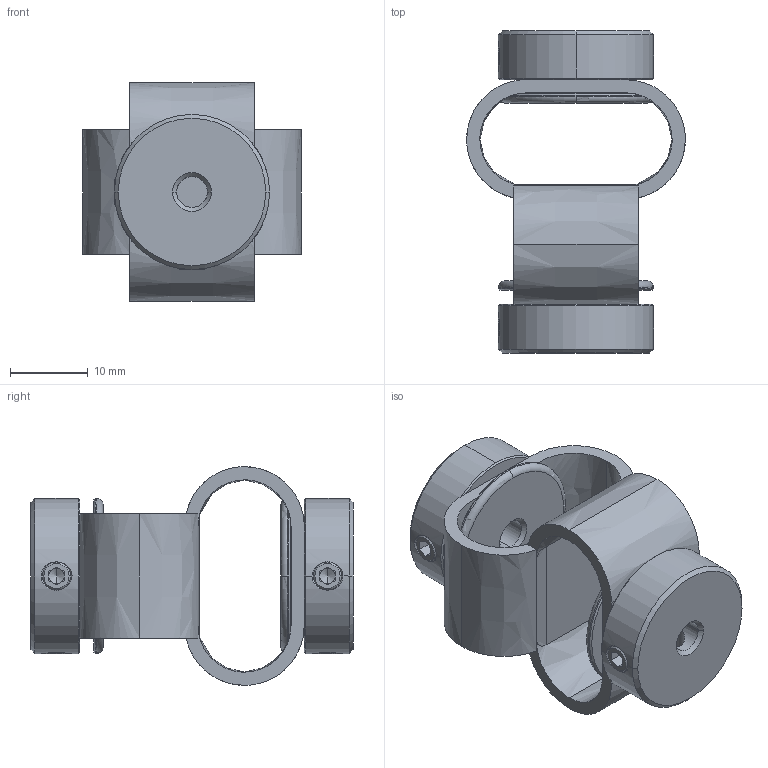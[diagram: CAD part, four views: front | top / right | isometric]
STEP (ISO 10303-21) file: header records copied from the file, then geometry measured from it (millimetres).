
FILE_DESCRIPTION (( 'STEP AP203' ), '1' );
FILE_NAME ('LS-D-D27L40-4-4.STEP', '2021-10-28T06:03:39', ( '' ), ( '' ), 'SwSTEP 2.0', 'SolidWorks 2018', '' );
FILE_SCHEMA (( 'CONFIG_CONTROL_DESIGN' ));
Length unit declared in the file: millimetre
Products named in the file (1): LS-D-D27L40-4-4
Bounding box: 28.2 x 41.54 x 28.2 mm (x, y, z)
Volume: 7567.2 mm3; surface area: 6693.6 mm2
Topology: 1 solids, 1 shells, 190 faces, 496 edges, 310 vertices
Faces by surface type: plane 86, cone 54, cylinder 30, bspline 16, torus 4
Entity records: 7793 total; most frequent: CARTESIAN_POINT 3213, ORIENTED_EDGE 976, DIRECTION 886, EDGE_CURVE 488, AXIS2_PLACEMENT_3D 345, VERTEX_POINT 310, EDGE_LOOP 216, LINE 196
